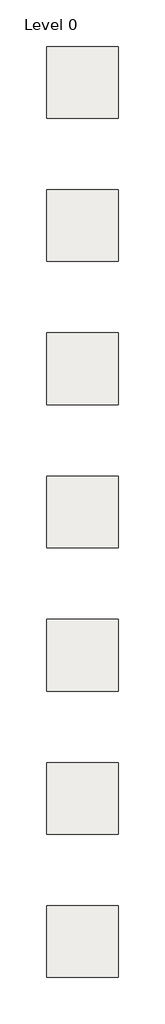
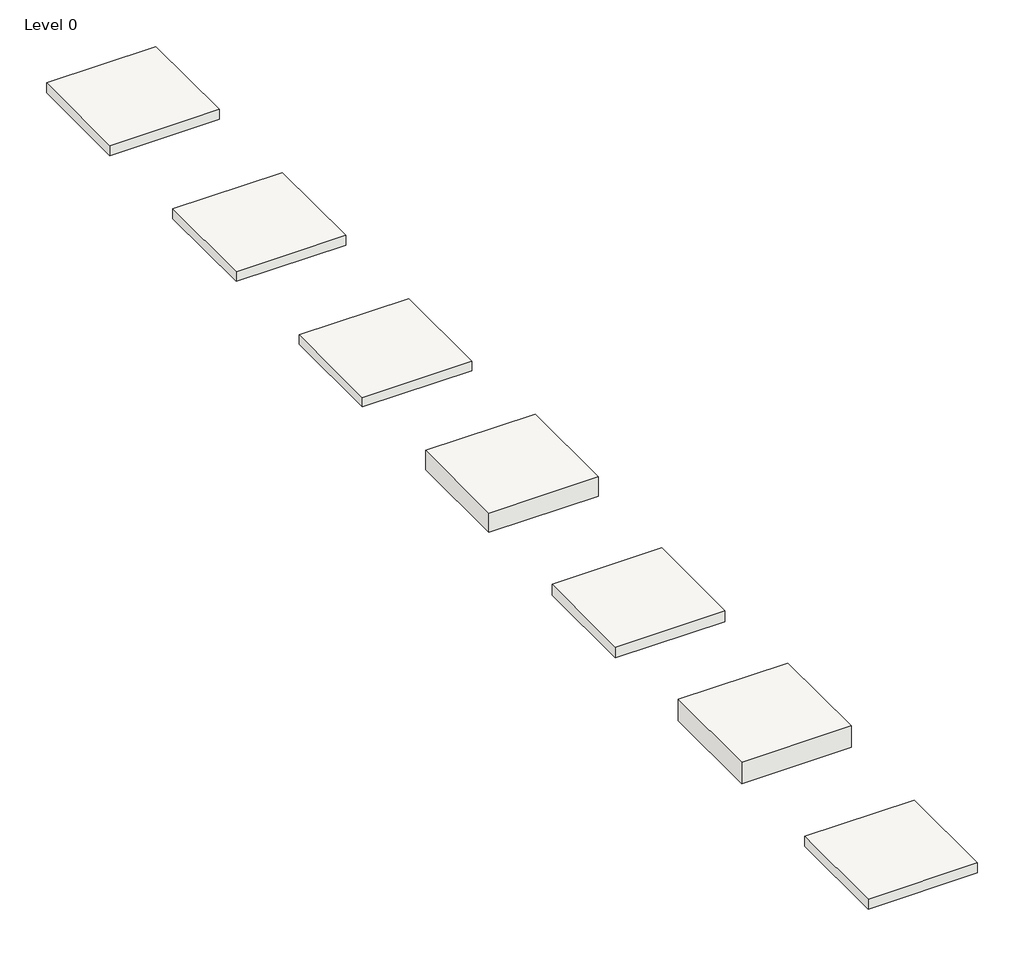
# One storey: 7 roofs.
"""IFC4 building model written with IfcOpenShell, lengths in millimetres."""

from ifc_helpers import new_model, si_unit, origin, origin_with_axes, place, context, project, spatial, polyline, outline, extrude, element, save

model = new_model("IFC4")

# Units and contexts
model_context = context("Model", 3, world=origin())
ifc_project = project(units=[si_unit("LENGTHUNIT", "METRE", prefix="MILLI")], contexts=[model_context])

# Site, building, storey
site = spatial("IfcSite", under=ifc_project)
building = spatial("IfcBuilding", under=site)
storey = spatial("IfcBuildingStorey", under=building, Name="Level 0", Elevation=0.0)

# Roofs
placement = place(None, origin())
element("IfcRoof", 1, ObjectType="IKO_FlatRoofSystems_PermaparkPaving_PremierPA1", at=placement, inside=storey, context=model_context, shape_type="SweptSolid", body=[
    extrude(outline(polyline([(-13285.2296761, 12993.1024107), (-11285.2296761, 12993.1024107), (-11285.2296761, 10993.1024107), (-13285.2296761, 10993.1024107), (-13285.2296761, 12993.1024107)])), origin_with_axes(), (0.0, 0.0, 1.0), 196.6),
])
element("IfcRoof", 2, ObjectType="IKO_FlatRoofSystems_PermaparkPaving_StandardPA2", at=placement, inside=storey, context=model_context, shape_type="SweptSolid", body=[
    extrude(outline(polyline([(-13285.2296761, 8993.1024107), (-11285.2296761, 8993.1024107), (-11285.2296761, 6993.1024107), (-13285.2296761, 6993.1024107), (-13285.2296761, 8993.1024107)])), origin_with_axes(), (0.0, 0.0, 1.0), 186.6),
])
element("IfcRoof", 3, ObjectType="IKO_FlatRoofSystems_PermaparkPaving_EconomyPA3", at=placement, inside=storey, context=model_context, shape_type="SweptSolid", body=[
    extrude(outline(polyline([(-13285.2296761, 4993.1024107), (-11285.2296761, 4993.1024107), (-11285.2296761, 2993.1024107), (-13285.2296761, 2993.1024107), (-13285.2296761, 4993.1024107)])), origin_with_axes(), (0.0, 0.0, 1.0), 176.6),
])
element("IfcRoof", 4, ObjectType="IKO_FlatRoofSystems_PermaparkPaving_InsulatedPA4", at=placement, inside=storey, context=model_context, shape_type="SweptSolid", body=[
    extrude(outline(polyline([(-13285.2296761, 993.1024107), (-11285.2296761, 993.1024107), (-11285.2296761, -1006.8975893), (-13285.2296761, -1006.8975893), (-13285.2296761, 993.1024107)])), origin_with_axes(), (0.0, 0.0, 1.0), 371.6),
])
element("IfcRoof", 5, ObjectType="IKO_FlatRoofSystems_PermaparkPaving_UninsulatedServiceDeckPA5", at=placement, inside=storey, context=model_context, shape_type="SweptSolid", body=[
    extrude(outline(polyline([(-13285.2296761, -3006.8975893), (-11285.2296761, -3006.8975893), (-11285.2296761, -5006.8975893), (-13285.2296761, -5006.8975893), (-13285.2296761, -3006.8975893)])), origin_with_axes(), (0.0, 0.0, 1.0), 211.6),
])
element("IfcRoof", 6, ObjectType="IKO_FlatRoofSystems_PermaparkPaving_InsulatedServiceDeckPA6", at=placement, inside=storey, context=model_context, shape_type="SweptSolid", body=[
    extrude(outline(polyline([(-13285.2296761, -7006.8975893), (-11285.2296761, -7006.8975893), (-11285.2296761, -9006.8975893), (-13285.2296761, -9006.8975893), (-13285.2296761, -7006.8975893)])), origin_with_axes(), (0.0, 0.0, 1.0), 411.6),
])
element("IfcRoof", 7, ObjectType="IKO_FlatRoofSystems_PermaparkPaving_CarAndLightCommercialVehicleRamp", at=placement, inside=storey, context=model_context, shape_type="SweptSolid", body=[
    extrude(outline(polyline([(-13285.2296761, -11006.8975893), (-11285.2296761, -11006.8975893), (-11285.2296761, -13006.8975893), (-13285.2296761, -13006.8975893), (-13285.2296761, -11006.8975893)])), origin_with_axes(), (0.0, 0.0, 1.0), 191.6),
])

save(model, "model.ifc")
